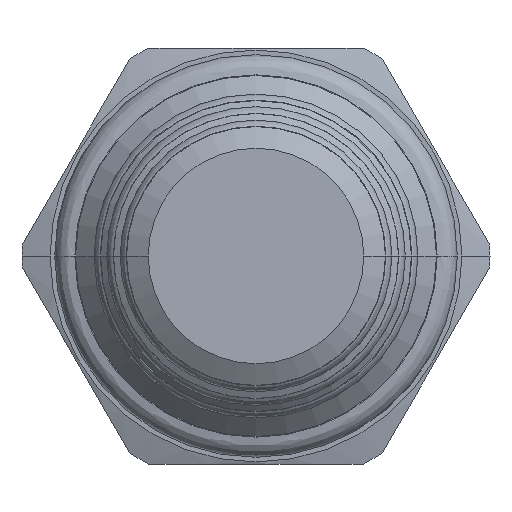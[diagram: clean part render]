
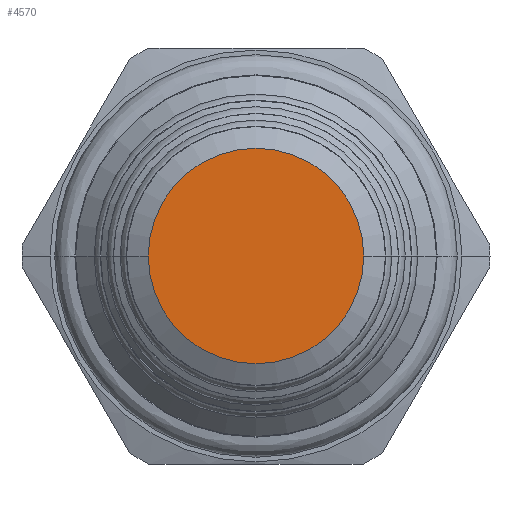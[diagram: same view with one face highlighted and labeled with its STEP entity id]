
A CAD part, front view. The second image highlights one B-rep face of the part: STEP entity #4570.
In plain terms, the highlighted planar face has unit normal (0, -1, 0).
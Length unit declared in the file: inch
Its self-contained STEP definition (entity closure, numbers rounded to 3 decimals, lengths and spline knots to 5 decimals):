
#1471=CARTESIAN_POINT('',(0.,-2.45827,0.));
#1472=DIRECTION('',(0.,1.,0.));
#1473=DIRECTION('',(1.,0.,0.));
#1474=AXIS2_PLACEMENT_3D('',#1471,#1472,#1473);
#1476=CARTESIAN_POINT('',(0.,-2.45827,0.));
#1477=DIRECTION('',(0.,1.,0.));
#1478=DIRECTION('',(-1.,0.,0.));
#1479=AXIS2_PLACEMENT_3D('',#1476,#1477,#1478);
#2175=CARTESIAN_POINT('',(0.25904,-2.45827,0.));
#2176=CARTESIAN_POINT('',(-0.25904,-2.45827,0.));
#2177=VERTEX_POINT('',#2175);
#2178=VERTEX_POINT('',#2176);
#4560=CARTESIAN_POINT('',(0.,-2.45827,0.));
#4561=DIRECTION('',(0.,1.,0.));
#4562=DIRECTION('',(1.,0.,0.));
#4563=AXIS2_PLACEMENT_3D('',#4560,#4561,#4562);
#4564=PLANE('',#4563);
#4565=ORIENTED_EDGE('',*,*,#4550,.T.);
#4567=ORIENTED_EDGE('',*,*,#4566,.T.);
#4568=EDGE_LOOP('',(#4565,#4567));
#4569=FACE_OUTER_BOUND('',#4568,.F.);
#4570=ADVANCED_FACE('',(#4569),#4564,.F.);
#1475=CIRCLE('',#1474,0.25904);
#1480=CIRCLE('',#1479,0.25904);
#4550=EDGE_CURVE('',#2177,#2178,#1475,.T.);
#4566=EDGE_CURVE('',#2178,#2177,#1480,.T.);
